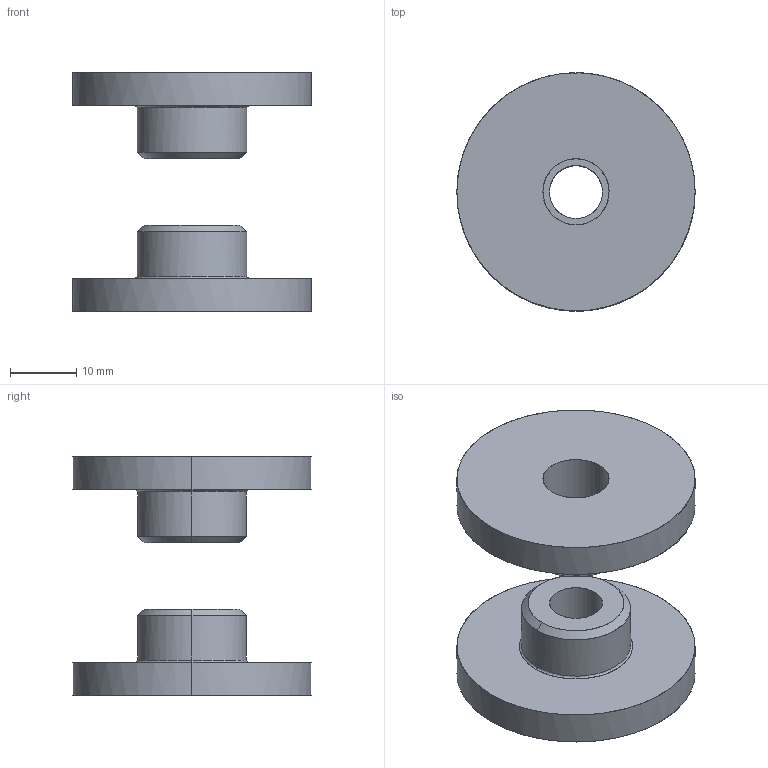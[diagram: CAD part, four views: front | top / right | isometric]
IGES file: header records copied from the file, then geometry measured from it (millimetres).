
Global section: file name: E:\UnigraphicsGraphicData\MISUMI_PRESS-PARTS\IGES\3d_wunt35_00807_r00.igs; native system: NX V5.0; preprocessor: UGS NX IGES V5.0; author: MISUMI; date: 20110105.163520; units: millimetre
Bounding box: 36 x 36 x 36 mm (x, y, z)
Surface area: 6432.3 mm2 (no closed solid volume)
Topology: 0 solids, 0 shells, 26 faces, 208 edges, 208 vertices
Faces by surface type: bspline 26
